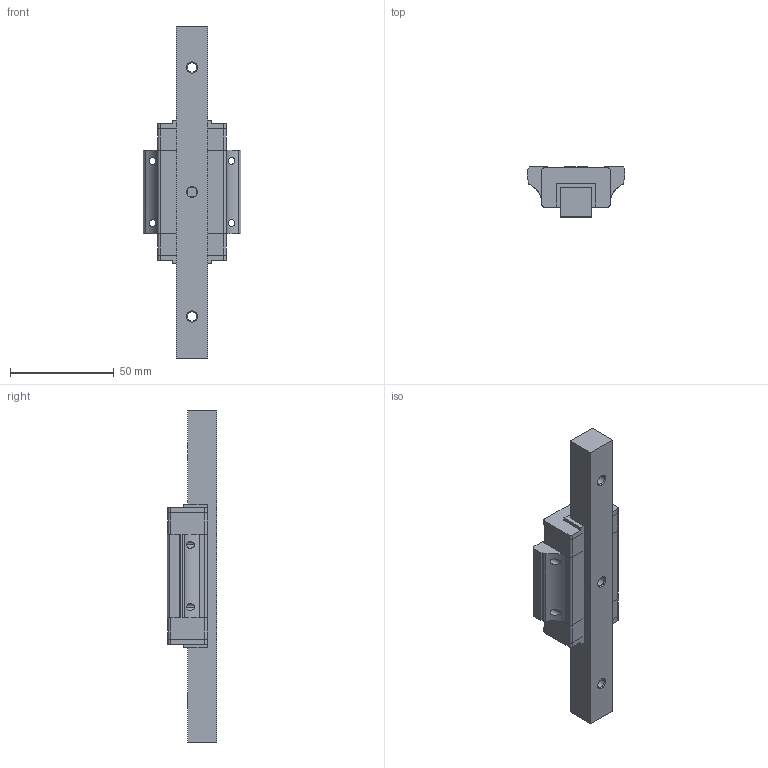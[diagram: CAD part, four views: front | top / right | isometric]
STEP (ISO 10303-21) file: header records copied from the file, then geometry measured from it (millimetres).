
FILE_DESCRIPTION( ( 'STEP File Generated from CADKEY Workshop EX' ), '1' );
FILE_NAME( 'Part1', '2004-11-05T23:59:40', ( 'CADKEY USER' ), ( 'CADKEY CORPORATION' ), 'ACIS Interop R11 SP4', 'CADKEY Workshop EX V21.05.02 (0359)', 'CK' );
FILE_SCHEMA( ( 'CONFIG_CONTROL_DESIGN' ) );
Length unit declared in the file: millimetre
Products named in the file (6): 1; 2; 3; 4; 5; 6
Bounding box: 47 x 24 x 160 mm (x, y, z)
Volume: 70390.5 mm3; surface area: 24912.7 mm2
Topology: 6 solids, 6 shells, 131 faces, 342 edges, 226 vertices
Faces by surface type: plane 83, cylinder 42, cone 6
Entity records: 4487 total; most frequent: CARTESIAN_POINT 905, DIRECTION 690, ORIENTED_EDGE 684, EDGE_CURVE 342, LINE 252, VECTOR 252, VERTEX_POINT 226, AXIS2_PLACEMENT_3D 219
